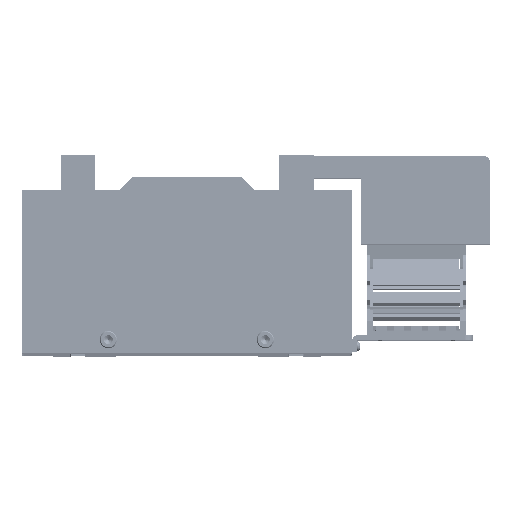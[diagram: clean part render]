
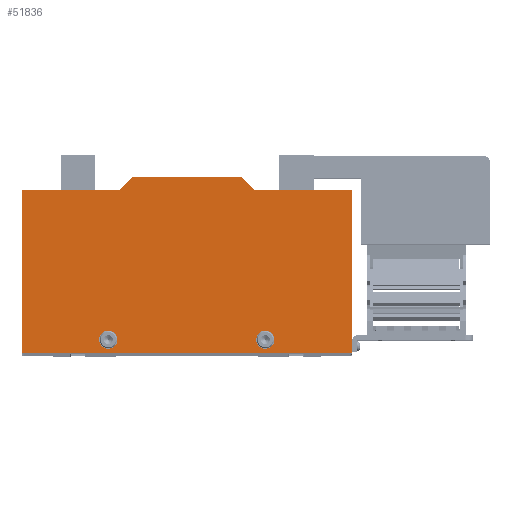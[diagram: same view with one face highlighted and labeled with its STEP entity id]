
A CAD part, top view. The second image highlights one B-rep face of the part: STEP entity #51836.
In plain terms, the highlighted planar face has unit normal (0, 0, 1) as drawn and (0, 0, -1) by its records, which use the part's own axes.
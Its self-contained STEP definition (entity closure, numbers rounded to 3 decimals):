
#40019 = CARTESIAN_POINT ( 'NONE',  ( -111.191, -17.701, 0. ) ) ;
#40103 = DIRECTION ( 'NONE',  ( -1., 0., 0. ) ) ;
#40104 = VECTOR ( 'NONE', #40103, 1000. ) ;
#40105 = CARTESIAN_POINT ( 'NONE',  ( 14.809, -17.701, 0. ) ) ;
#40106 = LINE ( 'NONE', #40105, #40104 ) ;
#40223 = DIRECTION ( 'NONE',  ( 0., -1., 0. ) ) ;
#40225 = VECTOR ( 'NONE', #40223, 1000. ) ;
#40226 = CARTESIAN_POINT ( 'NONE',  ( 14.809, 84.299, 0. ) ) ;
#40227 = LINE ( 'NONE', #40226, #40225 ) ;
#40240 = CARTESIAN_POINT ( 'NONE',  ( 14.809, -9.701, 0. ) ) ;
#40316 = CARTESIAN_POINT ( 'NONE',  ( -29.691, 76.299, 0. ) ) ;
#40364 = CARTESIAN_POINT ( 'NONE',  ( -40.191, 76.299, 0. ) ) ;
#40380 = DIRECTION ( 'NONE',  ( -1., 0., 0. ) ) ;
#40383 = DIRECTION ( 'NONE',  ( 0., 0., -1. ) ) ;
#40384 = CARTESIAN_POINT ( 'NONE',  ( -34.941, 76.299, 0. ) ) ;
#40385 = AXIS2_PLACEMENT_3D ( 'NONE', #40384, #40383, #40380 ) ;
#40386 = CIRCLE ( 'NONE', #40385, 5.25 ) ;
#40558 = CARTESIAN_POINT ( 'NONE',  ( -120.191, 76.299, 0. ) ) ;
#42100 = CARTESIAN_POINT ( 'NONE',  ( -175.191, 84.299, 0. ) ) ;
#42101 = LINE ( 'NONE', #42100, #42165 ) ;
#42161 = CARTESIAN_POINT ( 'NONE',  ( 14.809, 84.299, 0. ) ) ;
#42162 = CARTESIAN_POINT ( 'NONE',  ( -175.191, 84.299, 0. ) ) ;
#42164 = DIRECTION ( 'NONE',  ( 1., 0., 0. ) ) ;
#42165 = VECTOR ( 'NONE', #42164, 1000. ) ;
#42219 = CARTESIAN_POINT ( 'NONE',  ( -130.691, 76.299, 0. ) ) ;
#42220 = DIRECTION ( 'NONE',  ( -1., 0., 0. ) ) ;
#42221 = DIRECTION ( 'NONE',  ( 0., 0., -1. ) ) ;
#42222 = CARTESIAN_POINT ( 'NONE',  ( -125.441, 76.299, 0. ) ) ;
#42223 = AXIS2_PLACEMENT_3D ( 'NONE', #42222, #42221, #42220 ) ;
#42224 = CIRCLE ( 'NONE', #42223, 5.25 ) ;
#42383 = CARTESIAN_POINT ( 'NONE',  ( -175.191, -9.701, 0. ) ) ;
#42433 = DIRECTION ( 'NONE',  ( 0., 1., 0. ) ) ;
#42434 = VECTOR ( 'NONE', #42433, 1000. ) ;
#42435 = CARTESIAN_POINT ( 'NONE',  ( -175.191, -17.701, 0. ) ) ;
#42437 = LINE ( 'NONE', #42435, #42434 ) ;
#42474 = CARTESIAN_POINT ( 'NONE',  ( -49.191, -17.701, 0. ) ) ;
#42808 = DIRECTION ( 'NONE',  ( -1., 0., 0. ) ) ;
#42809 = DIRECTION ( 'NONE',  ( 0., 0., -1. ) ) ;
#42810 = CARTESIAN_POINT ( 'NONE',  ( -125.441, 76.299, 0. ) ) ;
#42811 = AXIS2_PLACEMENT_3D ( 'NONE', #42810, #42809, #42808 ) ;
#42812 = CIRCLE ( 'NONE', #42811, 5.25 ) ;
#42815 = DIRECTION ( 'NONE',  ( 1., 0., 0. ) ) ;
#42816 = DIRECTION ( 'NONE',  ( 0., 0., 1. ) ) ;
#42817 = CARTESIAN_POINT ( 'NONE',  ( -175.191, 84.299, 0. ) ) ;
#42818 = AXIS2_PLACEMENT_3D ( 'NONE', #42817, #42816, #42815 ) ;
#42819 = PLANE ( 'NONE',  #42818 ) ;
#42820 = FACE_OUTER_BOUND ( 'NONE', #51828, .T. ) ;
#42821 = FACE_BOUND ( 'NONE', #51849, .T. ) ;
#42825 = FACE_BOUND ( 'NONE', #51806, .T. ) ;
#42852 = DIRECTION ( 'NONE',  ( -1., 0., 0. ) ) ;
#42853 = DIRECTION ( 'NONE',  ( 0., 0., -1. ) ) ;
#42854 = CARTESIAN_POINT ( 'NONE',  ( -34.941, 76.299, 0. ) ) ;
#42855 = AXIS2_PLACEMENT_3D ( 'NONE', #42854, #42853, #42852 ) ;
#42856 = CIRCLE ( 'NONE', #42855, 5.25 ) ;
#42857 = CARTESIAN_POINT ( 'NONE',  ( -41.191, -9.701, 0. ) ) ;
#42858 = DIRECTION ( 'NONE',  ( 1., 0., 0. ) ) ;
#42859 = VECTOR ( 'NONE', #42858, 1000. ) ;
#42860 = CARTESIAN_POINT ( 'NONE',  ( 14.809, -9.701, 0. ) ) ;
#42861 = LINE ( 'NONE', #42860, #42859 ) ;
#42890 = CARTESIAN_POINT ( 'NONE',  ( -119.191, -9.701, 0. ) ) ;
#42891 = DIRECTION ( 'NONE',  ( 0.707, -0.707, 0. ) ) ;
#42892 = VECTOR ( 'NONE', #42891, 1000. ) ;
#42893 = CARTESIAN_POINT ( 'NONE',  ( -111.191, -17.701, 0. ) ) ;
#42894 = LINE ( 'NONE', #42893, #42892 ) ;
#42917 = DIRECTION ( 'NONE',  ( 0.707, 0.707, 0. ) ) ;
#42918 = VECTOR ( 'NONE', #42917, 1000. ) ;
#42919 = CARTESIAN_POINT ( 'NONE',  ( -41.191, -9.701, 0. ) ) ;
#42920 = LINE ( 'NONE', #42919, #42918 ) ;
#42959 = DIRECTION ( 'NONE',  ( 1., 0., 0. ) ) ;
#42960 = VECTOR ( 'NONE', #42959, 1000. ) ;
#42961 = CARTESIAN_POINT ( 'NONE',  ( -119.191, -9.701, 0. ) ) ;
#42962 = LINE ( 'NONE', #42961, #42960 ) ;
#50788 = VERTEX_POINT ( 'NONE', #40019 ) ;
#50798 = EDGE_CURVE ( 'NONE', #51504, #50788, #40106, .T. ) ;
#50830 = VERTEX_POINT ( 'NONE', #40240 ) ;
#50842 = EDGE_CURVE ( 'NONE', #51220, #50830, #40227, .T. ) ;
#50895 = VERTEX_POINT ( 'NONE', #40316 ) ;
#50905 = EDGE_CURVE ( 'NONE', #50895, #50911, #40386, .T. ) ;
#50911 = VERTEX_POINT ( 'NONE', #40364 ) ;
#51028 = VERTEX_POINT ( 'NONE', #40558 ) ;
#51213 = EDGE_CURVE ( 'NONE', #51217, #51220, #42101, .T. ) ;
#51217 = VERTEX_POINT ( 'NONE', #42162 ) ;
#51220 = VERTEX_POINT ( 'NONE', #42161 ) ;
#51278 = EDGE_CURVE ( 'NONE', #51028, #51281, #42224, .T. ) ;
#51281 = VERTEX_POINT ( 'NONE', #42219 ) ;
#51392 = VERTEX_POINT ( 'NONE', #42383 ) ;
#51482 = EDGE_CURVE ( 'NONE', #51392, #51217, #42437, .T. ) ;
#51504 = VERTEX_POINT ( 'NONE', #42474 ) ;
#51806 = EDGE_LOOP ( 'NONE', ( #51837, #51846 ) ) ;
#51825 = ORIENTED_EDGE ( 'NONE', *, *, #50905, .F. ) ;
#51828 = EDGE_LOOP ( 'NONE', ( #51833, #51924, #51938, #51946, #51951, #51960, #51971, #51973 ) ) ;
#51833 = ORIENTED_EDGE ( 'NONE', *, *, #50842, .T. ) ;
#51836 = ADVANCED_FACE ( 'NONE', ( #42825, #42821, #42820 ), #42819, .F. ) ;
#51837 = ORIENTED_EDGE ( 'NONE', *, *, #51839, .F. ) ;
#51839 = EDGE_CURVE ( 'NONE', #51281, #51028, #42812, .T. ) ;
#51846 = ORIENTED_EDGE ( 'NONE', *, *, #51278, .F. ) ;
#51849 = EDGE_LOOP ( 'NONE', ( #51851, #51825 ) ) ;
#51851 = ORIENTED_EDGE ( 'NONE', *, *, #51871, .F. ) ;
#51871 = EDGE_CURVE ( 'NONE', #50911, #50895, #42856, .T. ) ;
#51924 = ORIENTED_EDGE ( 'NONE', *, *, #51926, .F. ) ;
#51926 = EDGE_CURVE ( 'NONE', #51929, #50830, #42861, .T. ) ;
#51929 = VERTEX_POINT ( 'NONE', #42857 ) ;
#51938 = ORIENTED_EDGE ( 'NONE', *, *, #51940, .F. ) ;
#51940 = EDGE_CURVE ( 'NONE', #51504, #51929, #42920, .T. ) ;
#51946 = ORIENTED_EDGE ( 'NONE', *, *, #50798, .T. ) ;
#51951 = ORIENTED_EDGE ( 'NONE', *, *, #51955, .F. ) ;
#51955 = EDGE_CURVE ( 'NONE', #51957, #50788, #42894, .T. ) ;
#51957 = VERTEX_POINT ( 'NONE', #42890 ) ;
#51960 = ORIENTED_EDGE ( 'NONE', *, *, #51962, .F. ) ;
#51962 = EDGE_CURVE ( 'NONE', #51392, #51957, #42962, .T. ) ;
#51971 = ORIENTED_EDGE ( 'NONE', *, *, #51482, .T. ) ;
#51973 = ORIENTED_EDGE ( 'NONE', *, *, #51213, .T. ) ;
